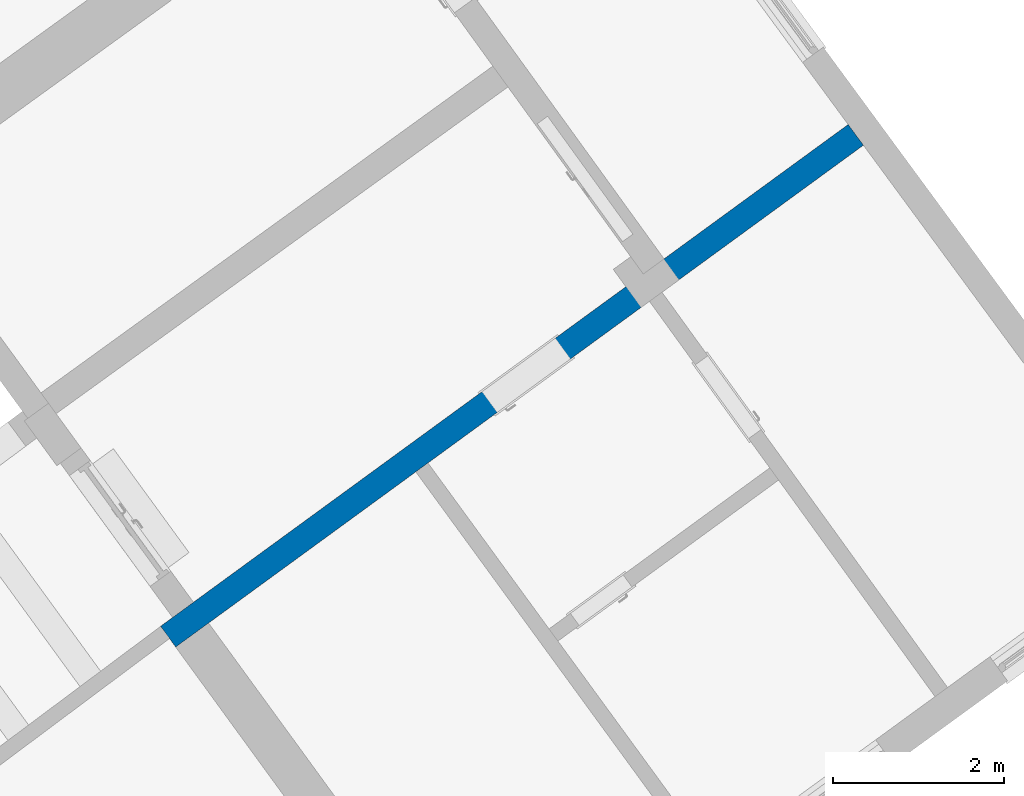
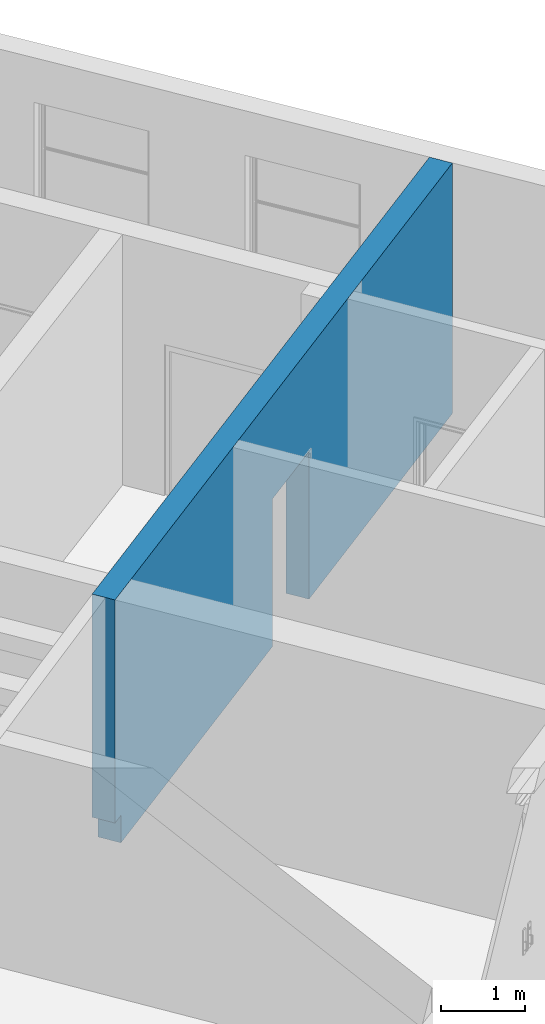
# One storey, part 112 of 157: 1 wall, 1 opening.
"""IFC2X3 building model written with IfcOpenShell, lengths in millimetres."""

from ifc_helpers import new_model, entity, si_unit, converted_unit, derived_unit, direction, frame, frame_2d, origin, place, context, subcontext, project, spatial, rectangle, extrude, faceted_brep, material, layer, layer_set, type_object, element, save


model = new_model("IFC2X3")

# Units and contexts
model_context = context("Model", 3, precision=0.01, world=origin(), true_north=direction((6.123031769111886e-17, 1.0)))
body_context = subcontext(model_context, "Body", "Model", "MODEL_VIEW")
ifc_project = project(units=[si_unit("LENGTHUNIT", "METRE", prefix="MILLI"), si_unit("AREAUNIT", "SQUARE_METRE"), si_unit("VOLUMEUNIT", "CUBIC_METRE"), converted_unit("PLANEANGLEUNIT", "DEGREE", entity("IfcRatioMeasure", 0.017453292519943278), si_unit("PLANEANGLEUNIT", "RADIAN"), dimensions=[0, 0, 0, 0, 0, 0, 0]), si_unit("MASSUNIT", "GRAM", prefix="KILO"), derived_unit("MASSDENSITYUNIT", [(si_unit("MASSUNIT", "GRAM", prefix="KILO"), 1), (si_unit("LENGTHUNIT", "METRE"), -3)]), derived_unit("MOMENTOFINERTIAUNIT", [(si_unit("LENGTHUNIT", "METRE"), 4)]), si_unit("TIMEUNIT", "SECOND"), si_unit("FREQUENCYUNIT", "HERTZ"), si_unit("THERMODYNAMICTEMPERATUREUNIT", "DEGREE_CELSIUS"), derived_unit("THERMALTRANSMITTANCEUNIT", [(si_unit("MASSUNIT", "GRAM", prefix="KILO"), 1), (si_unit("THERMODYNAMICTEMPERATUREUNIT", "KELVIN"), -1), (si_unit("TIMEUNIT", "SECOND"), -3)]), derived_unit("THERMALCONDUCTANCEUNIT", [(si_unit("MASSUNIT", "GRAM", prefix="KILO"), 1), (si_unit("LENGTHUNIT", "METRE"), 1), (si_unit("THERMODYNAMICTEMPERATUREUNIT", "KELVIN"), -1), (si_unit("TIMEUNIT", "SECOND"), -3)]), derived_unit("VOLUMETRICFLOWRATEUNIT", [(si_unit("LENGTHUNIT", "METRE"), 3), (si_unit("TIMEUNIT", "SECOND"), -1)]), derived_unit("MASSFLOWRATEUNIT", [(si_unit("MASSUNIT", "GRAM", prefix="KILO"), 1), (si_unit("TIMEUNIT", "SECOND"), -1)]), derived_unit("ROTATIONALFREQUENCYUNIT", [(si_unit("TIMEUNIT", "SECOND"), -1)]), si_unit("ELECTRICCURRENTUNIT", "AMPERE"), si_unit("ELECTRICVOLTAGEUNIT", "VOLT"), si_unit("POWERUNIT", "WATT"), converted_unit("FORCEUNIT", "KIP", entity("IfcRatioMeasure", 2.088543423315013e-05), si_unit("FORCEUNIT", "NEWTON"), dimensions=[1, 1, -2, 0, 0, 0, 0]), si_unit("ILLUMINANCEUNIT", "LUX"), si_unit("LUMINOUSFLUXUNIT", "LUMEN"), si_unit("LUMINOUSINTENSITYUNIT", "CANDELA"), derived_unit("USERDEFINED", [(si_unit("MASSUNIT", "GRAM", prefix="KILO"), -1), (si_unit("LENGTHUNIT", "METRE"), -2), (si_unit("TIMEUNIT", "SECOND"), 3), (si_unit("LUMINOUSFLUXUNIT", "LUMEN"), 1)]), derived_unit("USERDEFINED", [(si_unit("MASSUNIT", "GRAM", prefix="KILO"), 1), (si_unit("LENGTHUNIT", "METRE"), 3), (si_unit("TIMEUNIT", "SECOND"), -3), (si_unit("ELECTRICCURRENTUNIT", "AMPERE"), -2)]), derived_unit("USERDEFINED", [(si_unit("LENGTHUNIT", "METRE"), 2), (si_unit("TIMEUNIT", "SECOND"), -2)]), derived_unit("SOUNDPOWERUNIT", [(si_unit("MASSUNIT", "GRAM", prefix="KILO"), 1), (si_unit("LENGTHUNIT", "METRE"), 2), (si_unit("TIMEUNIT", "SECOND"), -3)]), derived_unit("SOUNDPRESSUREUNIT", [(si_unit("MASSUNIT", "GRAM", prefix="KILO"), 1), (si_unit("LENGTHUNIT", "METRE"), -1), (si_unit("TIMEUNIT", "SECOND"), -2)]), derived_unit("LINEARVELOCITYUNIT", [(si_unit("LENGTHUNIT", "METRE"), 1), (si_unit("TIMEUNIT", "SECOND"), -1)]), si_unit("PRESSUREUNIT", "PASCAL"), derived_unit("USERDEFINED", [(si_unit("LENGTHUNIT", "METRE"), -2), (si_unit("MASSUNIT", "GRAM", prefix="KILO"), 1), (si_unit("TIMEUNIT", "SECOND"), -2)]), derived_unit("LINEARFORCEUNIT", [(si_unit("MASSUNIT", "GRAM", prefix="KILO"), 1), (si_unit("LENGTHUNIT", "METRE"), 1), (si_unit("TIMEUNIT", "SECOND"), -2), (si_unit("LENGTHUNIT", "METRE"), -1)]), derived_unit("PLANARFORCEUNIT", [(si_unit("MASSUNIT", "GRAM", prefix="KILO"), 1), (si_unit("LENGTHUNIT", "METRE"), 1), (si_unit("TIMEUNIT", "SECOND"), -2), (si_unit("LENGTHUNIT", "METRE"), -2)]), derived_unit("SPECIFICHEATCAPACITYUNIT", [(si_unit("LENGTHUNIT", "METRE"), 2), (si_unit("TIMEUNIT", "SECOND"), -2), (si_unit("THERMODYNAMICTEMPERATUREUNIT", "KELVIN"), -1)]), derived_unit("VAPORPERMEABILITYUNIT", [(si_unit("TIMEUNIT", "SECOND"), 1), (si_unit("LENGTHUNIT", "METRE"), -1)]), derived_unit("DYNAMICVISCOSITYUNIT", [(si_unit("MASSUNIT", "GRAM", prefix="KILO"), 1), (si_unit("LENGTHUNIT", "METRE"), -1), (si_unit("TIMEUNIT", "SECOND"), -1)]), derived_unit("THERMALEXPANSIONCOEFFICIENTUNIT", [(si_unit("THERMODYNAMICTEMPERATUREUNIT", "KELVIN"), -1)])], contexts=[model_context])

# Site, building, storey
site_placement = place(None, frame((0.0, 0.0, 0.0), z_axis=(0.0, 0.0, 1.0), x_axis=(0.8191520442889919, 0.5735764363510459, 0.0)))
site = spatial("IfcSite", under=ifc_project, at=site_placement, Name="Default", CompositionType="ELEMENT")
building_placement = place(site_placement, origin())
building = spatial("IfcBuilding", under=site, at=building_placement, CompositionType="ELEMENT")
storey_placement = place(building_placement, origin())
storey = spatial("IfcBuildingStorey", under=building, at=storey_placement, Name="1.EG +0.00", CompositionType="ELEMENT", Elevation=-4.331468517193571e-12)

# Wall, opening
ifc_material = material(Name="Analytical Wall Surface_CJC")
ifc_layer = layer(ifc_material, 300.0)
ifc_layer_set = layer_set([ifc_layer], Name="Basic Wall:Wand_Innen_30")
wall_type = type_object("IfcWallType", Name="Basic Wall:Wand_Innen_30", PredefinedType="STANDARD", material=ifc_layer_set)
wall_placement = place(storey_placement, frame((-191244.63391325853, 164417.5026564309, -1150.0), z_axis=(0.0, 0.0, 1.0), x_axis=(0.9998096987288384, 0.019508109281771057, 0.0)))
wall = element("IfcWall", 1, at=wall_placement, inside=storey, type_object=wall_type, Name="Basic Wall:Wand_Innen_30", ObjectType="Basic Wall:Wand_Innen_30", context=body_context, shape_type="Brep", body=[
    faceted_brep([(9943.484826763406, -150.0, 3650.0), (7030.00061100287, -150.0, 3650.0), (6849.998643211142, -150.0, 3650.0), (3646.691569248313, -150.0, 3650.0), (3471.691569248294, -150.0, 3650.0), (475.0002194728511, -150.0, 3650.0), (0.0, -150.0, 3650.0), (0.0, -150.0, 400.0), (174.99920264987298, -150.0, 400.0), (174.99920264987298, -150.0, 0.0), (3471.691569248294, -150.0, 0.0), (3646.691569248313, -150.0, 0.0), (4638.012602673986, -150.0, 0.0), (4638.012602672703, -150.0, 2150.0), (5718.0126026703, -150.0, 2150.0), (5718.01260267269, -150.0, 0.0), (6849.998643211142, -150.0, 0.0), (7030.00061100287, -150.0, 0.0), (9943.484826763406, -150.0, 0.0), (0.28838984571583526, 150.0, 3650.0), (175.28973656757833, 150.0, 3650.0), (475.28987725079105, 150.0, 3650.0), (6979.538666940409, 150.0, 3650.0), (7279.541399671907, 150.0, 3650.0), (9942.354250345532, 150.0, 3650.0), (9942.354250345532, 150.0, 0.0), (7279.541399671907, 150.0, 0.0), (6979.538666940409, 150.0, 0.0), (5718.012602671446, 150.0, 0.0), (5718.012602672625, 150.0, 2150.0), (4638.0126026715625, 150.0, 2150.0), (4638.012602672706, 150.0, 0.0), (475.28987725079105, 150.0, 0.0), (175.28973656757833, 150.0, 0.0), (175.2897365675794, 150.0, 400.0), (0.28838984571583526, 150.0, 400.0)], [[[0, 1, 2, 3, 4, 5, 6, 7, 8, 9, 10, 11, 12, 13, 14, 15, 16, 17, 18]], [[19, 20, 21, 22, 23, 24, 25, 26, 27, 28, 29, 30, 31, 32, 33, 34, 35]], [[9, 33, 32, 31, 12, 11, 10]], [[6, 5, 4, 3, 2, 1, 0, 24, 23, 22, 21, 20, 19]], [[0, 18, 25, 24]], [[35, 34, 8, 7]], [[33, 9, 8, 34]], [[6, 19, 35, 7]], [[14, 29, 28, 15]], [[29, 14, 13, 30]], [[30, 13, 12, 31]], [[25, 18, 17, 16, 15, 28, 27, 26]]]),
])
opening_placement = place(wall_placement, frame((5718.01260267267, 150.0, 0.0)))
element("IfcOpeningElement", 2, at=opening_placement, cuts=wall, Name="Doors_IntSgl:100x210:1", ObjectType="Opening", context=body_context, shape_type="SweptSolid", body=[
    extrude(rectangle(XDim=2150.000000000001, YDim=1079.9999999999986, at=frame_2d((1075.0000000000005, 539.9999999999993), x_axis=(1.0, 0.0))), frame((0.0, 0.0, 0.0), z_axis=(0.0, -1.0, 0.0), x_axis=(0.0, 0.0, 1.0)), (0.0, 0.0, 1.0), 299.9999999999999),
])

save(model, "model.ifc")
